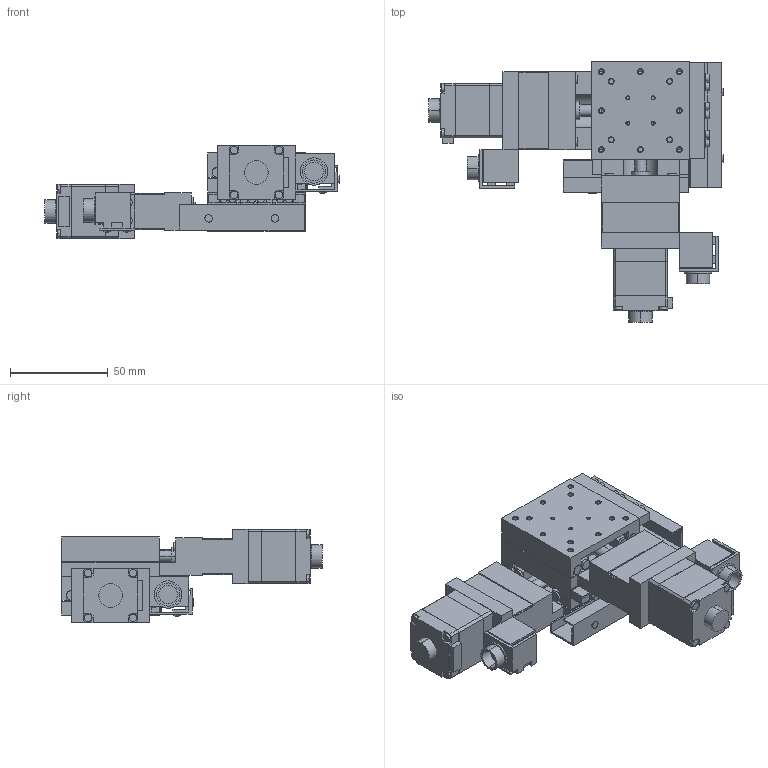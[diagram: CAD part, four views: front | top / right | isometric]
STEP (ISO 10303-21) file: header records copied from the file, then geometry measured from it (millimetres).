
FILE_DESCRIPTION(('STEP AP203'),'1');
FILE_NAME('C:/3D-Trans/3D_PMG513M-L□-T+240122.step','2024-03-14T06:32:03',(' '),(' '),'Spatial InterOp 3D',' ',' ');
FILE_SCHEMA(('CONFIG_CONTROL_DESIGN'));
Length unit declared in the file: millimetre
Products named in the file (12): 1; 2; 3; 4; 5; 6; 7; 8; 9; 10; 11; 12
Bounding box: 150.9 x 133.5 x 48 mm (x, y, z)
Volume: 190984.2 mm3; surface area: 91750.1 mm2
Topology: 12 solids, 12 shells, 1278 faces, 3286 edges, 2072 vertices
Faces by surface type: plane 738, cylinder 380, cone 152, sphere 8
Entity records: 39050 total; most frequent: DIRECTION 6846, CARTESIAN_POINT 6664, ORIENTED_EDGE 6476, EDGE_CURVE 3238, AXIS2_PLACEMENT_3D 2334, LINE 2178, VECTOR 2178, VERTEX_POINT 2072
